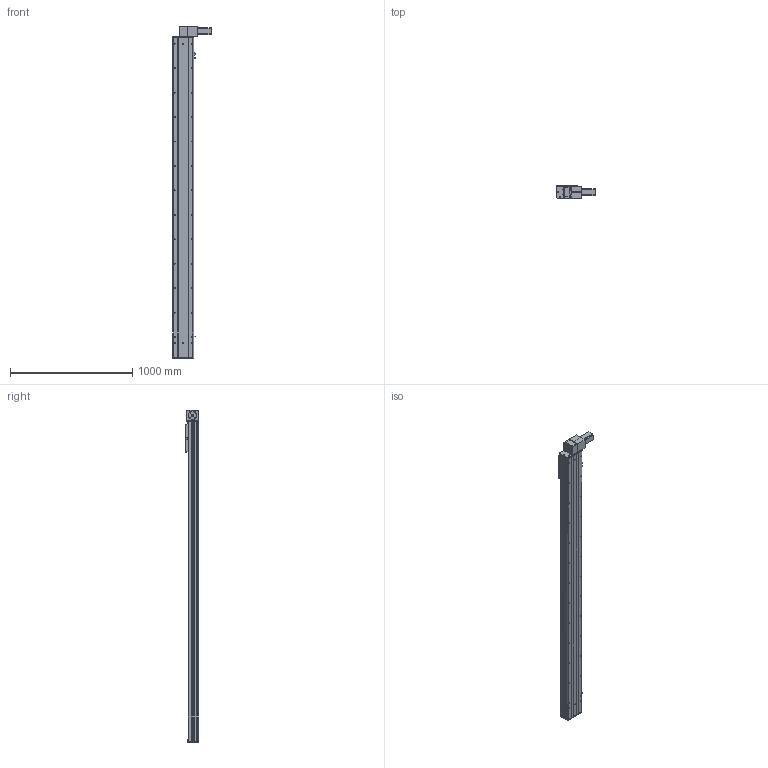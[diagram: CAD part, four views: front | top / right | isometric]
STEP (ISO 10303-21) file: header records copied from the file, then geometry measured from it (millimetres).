
FILE_DESCRIPTION (( 'STEP AP203' ), '1' );
FILE_NAME ('Y170CB-D105-S2300-BD-P400W.STEP', '2020-02-20T09:06:38', ( '微软用户' ), ( '微软中国' ), 'SwSTEP 2.0', 'SolidWorks 2017', '' );
FILE_SCHEMA (( 'CONFIG_CONTROL_DESIGN' ));
Length unit declared in the file: millimetre
Products named in the file (16): 70CB-詩湍--; san松下电机400不带刹车----; Y100-135俋离換覜ん--; 70CB-掛极-; Y170CB-陔俋离換覜結え---; --70CB --喘謫眊楊擘啣-; Y1埴倛裔; 70CB-耜裔啣-; 70B喘謫眊----; 70C--詩湍揤踡え-; 0B薊粣ん眊-400W--; 70CB--耜裔; Y170CB-D105-S2300-BD-P400W; 70C-雄赽釱-奻-; 0C--雄赽釱俋欶-170; B-源倛裔啣
Assembly tree (19 placements, depth 2):
  Y170CB-D105-S2300-BD-P400W
    B-源倛裔啣
    san松下电机400不带刹车----
    70CB-掛极-
    --70CB --喘謫眊楊擘啣-
    70CB-耜裔啣-  x2
    70C--詩湍揤踡え-  x2
    70CB--耜裔
    70C-雄赽釱-奻-
    0C--雄赽釱俋欶-170
    70CB-詩湍--
    Y100-135俋离換覜ん--  x3
    Y170CB-陔俋离換覜結え---
    Y1埴倛裔
    70B喘謫眊----
    0B薊粣ん眊-400W--
Bounding box: 313.5 x 107 x 2716 mm (x, y, z)
Volume: 11944770.5 mm3; surface area: 4179784.1 mm2
Topology: 19 solids, 19 shells, 976 faces, 2594 edges, 1720 vertices
Faces by surface type: cylinder 530, plane 422, cone 24
Entity records: 30763 total; most frequent: CARTESIAN_POINT 5746, DIRECTION 5007, ORIENTED_EDGE 4670, EDGE_CURVE 2335, AXIS2_PLACEMENT_3D 1861, VERTEX_POINT 1550, LINE 1285, VECTOR 1285
